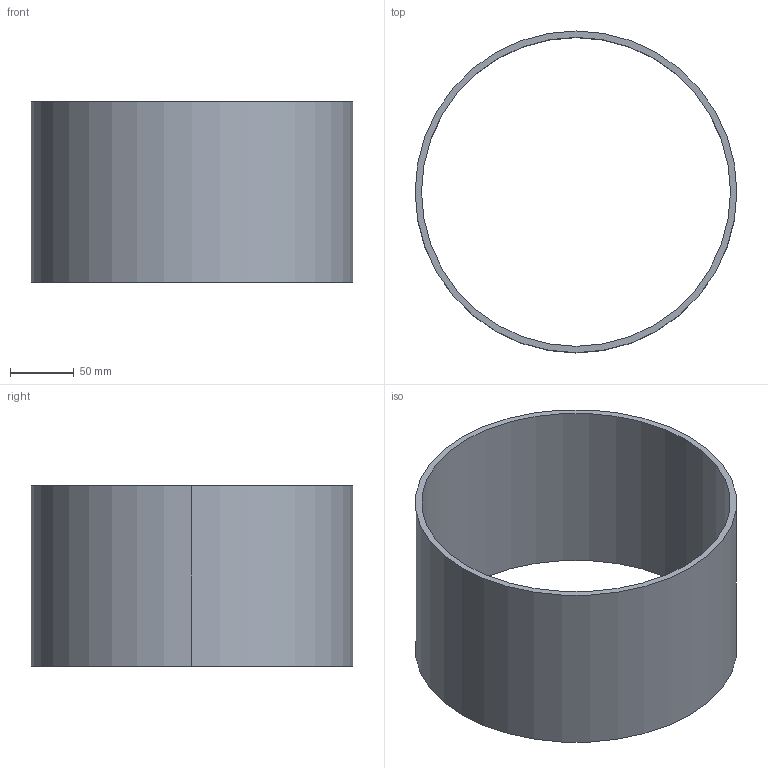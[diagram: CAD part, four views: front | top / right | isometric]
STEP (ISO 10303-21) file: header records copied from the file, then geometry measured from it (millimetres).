
FILE_DESCRIPTION(('CATIA V5 STEP Exchange'),'2;1');
FILE_NAME('C:\_Andres\UNIVERSIDAD\IQS\ASIGNATURAS\DAO\EXF\EXF-15161c\1original\Subirada_Blanco_Ej07-tabla_v26.stp','2016-03-04T21:16:36+00:00',('none'),('none'),'CATIA Version 5 Release 20 SP 1 (IN-10)','CATIA V5 STEP AP203','none');
FILE_SCHEMA(('CONFIG_CONTROL_DESIGN'));
Length unit declared in the file: millimetre
Products named in the file (1): Subirada_Blanco_Ej07-tabla_v26
Bounding box: 252 x 252 x 141 mm (x, y, z)
Volume: 547061.2 mm3; surface area: 226584.2 mm2
Topology: 1 solids, 1 shells, 6 faces, 13 edges, 10 vertices
Faces by surface type: cylinder 4, plane 2
Entity records: 208 total; most frequent: CARTESIAN_POINT 29, ORIENTED_EDGE 24, DIRECTION 23, AXIS2_PLACEMENT_3D 14, EDGE_CURVE 12, CIRCLE 8, EDGE_LOOP 8, VERTEX_POINT 8
